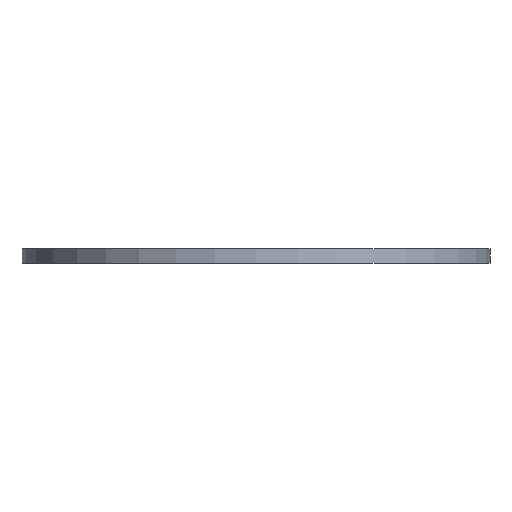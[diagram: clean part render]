
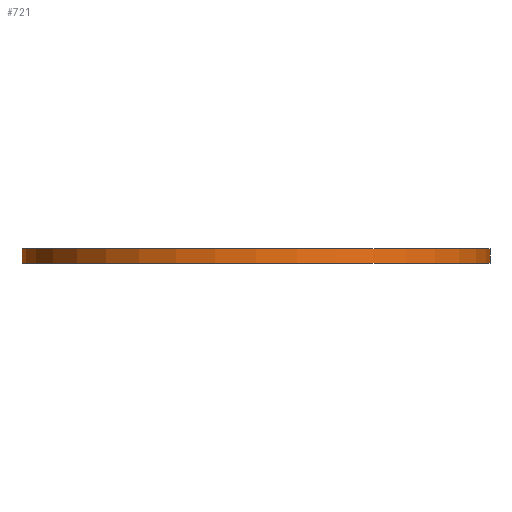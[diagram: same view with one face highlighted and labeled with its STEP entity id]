
A CAD part, front view. The second image highlights one B-rep face of the part: STEP entity #721.
In plain terms, the highlighted cylindrical face has radius 412.5 mm (diameter 825 mm), a full revolution.
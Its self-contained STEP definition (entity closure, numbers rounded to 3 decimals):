
#89=FACE_OUTER_BOUND('',#116,.T.);
#116=EDGE_LOOP('',(#590,#591,#592,#593,#594,#595));
#191=LINE('',#1279,#216);
#216=VECTOR('',#1071,412.5);
#289=CIRCLE('',#841,412.5);
#290=CIRCLE('',#842,412.5);
#291=CIRCLE('',#843,412.5);
#292=CIRCLE('',#844,412.5);
#365=VERTEX_POINT('',#1274);
#366=VERTEX_POINT('',#1275);
#367=VERTEX_POINT('',#1278);
#368=VERTEX_POINT('',#1280);
#465=EDGE_CURVE('',#365,#366,#289,.T.);
#466=EDGE_CURVE('',#366,#365,#290,.T.);
#467=EDGE_CURVE('',#366,#367,#191,.T.);
#468=EDGE_CURVE('',#367,#368,#291,.T.);
#469=EDGE_CURVE('',#368,#367,#292,.T.);
#590=ORIENTED_EDGE('',*,*,#465,.F.);
#591=ORIENTED_EDGE('',*,*,#466,.F.);
#592=ORIENTED_EDGE('',*,*,#467,.T.);
#593=ORIENTED_EDGE('',*,*,#468,.T.);
#594=ORIENTED_EDGE('',*,*,#469,.T.);
#595=ORIENTED_EDGE('',*,*,#467,.F.);
#696=CYLINDRICAL_SURFACE('',#840,412.5);
#721=ADVANCED_FACE('',(#89),#696,.T.);
#840=AXIS2_PLACEMENT_3D('',#1273,#1065,#1066);
#841=AXIS2_PLACEMENT_3D('',#1276,#1067,#1068);
#842=AXIS2_PLACEMENT_3D('',#1277,#1069,#1070);
#843=AXIS2_PLACEMENT_3D('',#1281,#1072,#1073);
#844=AXIS2_PLACEMENT_3D('',#1282,#1074,#1075);
#1065=DIRECTION('center_axis',(0.,0.,1.));
#1066=DIRECTION('ref_axis',(1.,0.,0.));
#1067=DIRECTION('center_axis',(0.,0.,1.));
#1068=DIRECTION('ref_axis',(1.,0.,0.));
#1069=DIRECTION('center_axis',(0.,0.,1.));
#1070=DIRECTION('ref_axis',(1.,0.,0.));
#1071=DIRECTION('',(0.,0.,-1.));
#1072=DIRECTION('center_axis',(0.,0.,1.));
#1073=DIRECTION('ref_axis',(1.,0.,0.));
#1074=DIRECTION('center_axis',(0.,0.,1.));
#1075=DIRECTION('ref_axis',(1.,0.,0.));
#1273=CARTESIAN_POINT('Origin',(0.,0.,0.));
#1274=CARTESIAN_POINT('',(412.5,0.,26.));
#1275=CARTESIAN_POINT('',(-412.5,0.,26.));
#1276=CARTESIAN_POINT('Origin',(0.,0.,26.));
#1277=CARTESIAN_POINT('Origin',(0.,0.,26.));
#1278=CARTESIAN_POINT('',(-412.5,0.,0.));
#1279=CARTESIAN_POINT('',(-412.5,0.,0.));
#1280=CARTESIAN_POINT('',(412.5,0.,0.));
#1281=CARTESIAN_POINT('Origin',(0.,0.,0.));
#1282=CARTESIAN_POINT('Origin',(0.,0.,0.));
